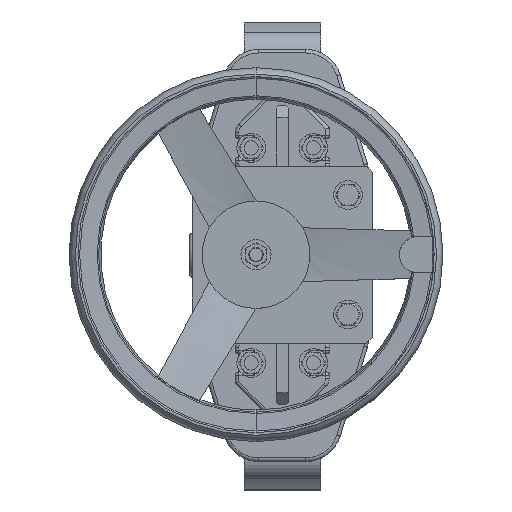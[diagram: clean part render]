
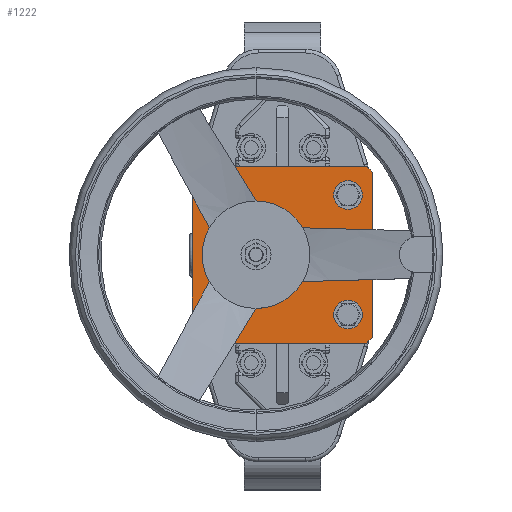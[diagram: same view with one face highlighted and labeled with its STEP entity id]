
A CAD part, top view. The second image highlights one B-rep face of the part: STEP entity #1222.
In plain terms, the highlighted planar face has unit normal (0, 0, 1).
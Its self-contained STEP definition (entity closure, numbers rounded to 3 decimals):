
#1222=ADVANCED_FACE('',(#3372,#3373,#3374,#3375,#3376,#3377),#3378,.T.);
#3372=FACE_BOUND('',#7379,.T.);
#3373=FACE_BOUND('',#7380,.T.);
#3374=FACE_BOUND('',#7381,.T.);
#3375=FACE_BOUND('',#7382,.T.);
#3376=FACE_OUTER_BOUND('',#7383,.T.);
#3377=FACE_BOUND('',#7384,.T.);
#3378=PLANE('',#7385);
#7379=EDGE_LOOP('',(#15623,#15624));
#7380=EDGE_LOOP('',(#15625,#15626));
#7381=EDGE_LOOP('',(#15627,#15628));
#7382=EDGE_LOOP('',(#15629,#15630));
#7383=EDGE_LOOP('',(#15631,#15632,#15633,#15634,#15635,#15636,#15637,#15638));
#7384=EDGE_LOOP('',(#15639,#15640));
#7385=AXIS2_PLACEMENT_3D('',#15641,#15642,#15643);
#15623=ORIENTED_EDGE('',*,*,#19034,.T.);
#15624=ORIENTED_EDGE('',*,*,#20829,.T.);
#15625=ORIENTED_EDGE('',*,*,#19988,.F.);
#15626=ORIENTED_EDGE('',*,*,#19324,.F.);
#15627=ORIENTED_EDGE('',*,*,#18794,.T.);
#15628=ORIENTED_EDGE('',*,*,#21020,.T.);
#15629=ORIENTED_EDGE('',*,*,#20726,.F.);
#15630=ORIENTED_EDGE('',*,*,#19099,.F.);
#15631=ORIENTED_EDGE('',*,*,#21021,.T.);
#15632=ORIENTED_EDGE('',*,*,#21022,.T.);
#15633=ORIENTED_EDGE('',*,*,#19807,.T.);
#15634=ORIENTED_EDGE('',*,*,#21023,.T.);
#15635=ORIENTED_EDGE('',*,*,#21024,.T.);
#15636=ORIENTED_EDGE('',*,*,#20918,.T.);
#15637=ORIENTED_EDGE('',*,*,#20412,.T.);
#15638=ORIENTED_EDGE('',*,*,#20997,.T.);
#15639=ORIENTED_EDGE('',*,*,#20158,.F.);
#15640=ORIENTED_EDGE('',*,*,#19276,.F.);
#15641=CARTESIAN_POINT('',(-75.5,-74.,588.7));
#15642=DIRECTION('',(0.,0.,1.));
#15643=DIRECTION('',(1.,0.,0.));
#18794=EDGE_CURVE('',#22342,#22339,#22343,.T.);
#19034=EDGE_CURVE('',#22818,#22815,#22819,.T.);
#19099=EDGE_CURVE('',#22937,#22940,#22941,.T.);
#19276=EDGE_CURVE('',#23285,#23288,#23289,.T.);
#19324=EDGE_CURVE('',#23380,#23383,#23384,.T.);
#19807=EDGE_CURVE('',#24240,#24241,#24242,.T.);
#19988=EDGE_CURVE('',#23383,#23380,#24524,.T.);
#20158=EDGE_CURVE('',#23288,#23285,#24792,.T.);
#20412=EDGE_CURVE('',#25182,#25183,#25184,.T.);
#20726=EDGE_CURVE('',#22940,#22937,#25632,.T.);
#20829=EDGE_CURVE('',#22815,#22818,#25765,.T.);
#20918=EDGE_CURVE('',#25873,#25182,#25874,.T.);
#20997=EDGE_CURVE('',#25183,#25972,#25973,.T.);
#21020=EDGE_CURVE('',#22339,#22342,#26002,.T.);
#21021=EDGE_CURVE('',#25972,#26003,#26004,.T.);
#21022=EDGE_CURVE('',#26003,#24240,#26005,.T.);
#21023=EDGE_CURVE('',#24241,#26006,#26007,.T.);
#21024=EDGE_CURVE('',#26006,#25873,#26008,.T.);
#22339=VERTEX_POINT('',#27757);
#22342=VERTEX_POINT('',#27761);
#22343=CIRCLE('',#27762,12.);
#22815=VERTEX_POINT('',#28613);
#22818=VERTEX_POINT('',#28617);
#22819=CIRCLE('',#28618,12.);
#22937=VERTEX_POINT('',#28844);
#22940=VERTEX_POINT('',#28848);
#22941=CIRCLE('',#28849,12.);
#23285=VERTEX_POINT('',#29559);
#23288=VERTEX_POINT('',#29563);
#23289=CIRCLE('',#29564,20.);
#23380=VERTEX_POINT('',#29722);
#23383=VERTEX_POINT('',#29726);
#23384=CIRCLE('',#29727,12.);
#24240=VERTEX_POINT('',#31551);
#24241=VERTEX_POINT('',#31552);
#24242=LINE('',#31553,#31554);
#24524=CIRCLE('',#32284,12.);
#24792=CIRCLE('',#32949,20.);
#25182=VERTEX_POINT('',#33596);
#25183=VERTEX_POINT('',#33597);
#25184=LINE('',#33598,#33599);
#25632=CIRCLE('',#34646,12.);
#25765=CIRCLE('',#34976,12.);
#25873=VERTEX_POINT('',#35244);
#25874=LINE('',#35245,#35246);
#25972=VERTEX_POINT('',#35488);
#25973=LINE('',#35489,#35490);
#26002=CIRCLE('',#35546,12.);
#26003=VERTEX_POINT('',#35547);
#26004=LINE('',#35548,#35549);
#26005=LINE('',#35550,#35551);
#26006=VERTEX_POINT('',#35552);
#26007=LINE('',#35553,#35554);
#26008=LINE('',#35555,#35556);
#27757=CARTESIAN_POINT('',(-55.,62.,588.7));
#27761=CARTESIAN_POINT('',(-55.,38.,588.7));
#27762=AXIS2_PLACEMENT_3D('',#37341,#37342,#37343);
#28613=CARTESIAN_POINT('',(55.,-62.,588.7));
#28617=CARTESIAN_POINT('',(55.,-38.,588.7));
#28618=AXIS2_PLACEMENT_3D('',#37783,#37784,#37785);
#28844=CARTESIAN_POINT('',(-55.,-62.,588.7));
#28848=CARTESIAN_POINT('',(-55.,-38.,588.7));
#28849=AXIS2_PLACEMENT_3D('',#37896,#37897,#37898);
#29559=CARTESIAN_POINT('',(-42.,0.,588.7));
#29563=CARTESIAN_POINT('',(-2.,0.,588.7));
#29564=AXIS2_PLACEMENT_3D('',#38214,#38215,#38216);
#29722=CARTESIAN_POINT('',(55.,62.,588.7));
#29726=CARTESIAN_POINT('',(55.,38.,588.7));
#29727=AXIS2_PLACEMENT_3D('',#38298,#38299,#38300);
#31551=CARTESIAN_POINT('',(70.5,74.,588.7));
#31552=CARTESIAN_POINT('',(-70.5,74.,588.7));
#31553=CARTESIAN_POINT('',(75.5,74.,588.7));
#31554=VECTOR('',#39063,1000.);
#32284=AXIS2_PLACEMENT_3D('',#39353,#39354,#39355);
#32949=AXIS2_PLACEMENT_3D('',#39598,#39599,#39600);
#33596=CARTESIAN_POINT('',(-70.5,-74.,588.7));
#33597=CARTESIAN_POINT('',(70.5,-74.,588.7));
#33598=CARTESIAN_POINT('',(-75.5,-74.,588.7));
#33599=VECTOR('',#40038,1000.);
#34646=AXIS2_PLACEMENT_3D('',#40557,#40558,#40559);
#34976=AXIS2_PLACEMENT_3D('',#40726,#40727,#40728);
#35244=CARTESIAN_POINT('',(-75.5,-69.,588.7));
#35245=CARTESIAN_POINT('',(-73.,-71.5,588.7));
#35246=VECTOR('',#40882,1000.);
#35488=CARTESIAN_POINT('',(75.5,-69.,588.7));
#35489=CARTESIAN_POINT('',(-2.5,-147.,588.7));
#35490=VECTOR('',#41008,1000.);
#35546=AXIS2_PLACEMENT_3D('',#41043,#41044,#41045);
#35547=CARTESIAN_POINT('',(75.5,69.,588.7));
#35548=CARTESIAN_POINT('',(75.5,-74.,588.7));
#35549=VECTOR('',#41046,1000.);
#35550=CARTESIAN_POINT('',(71.5,73.,588.7));
#35551=VECTOR('',#41047,1000.);
#35552=CARTESIAN_POINT('',(-75.5,69.,588.7));
#35553=CARTESIAN_POINT('',(-147.,-2.5,588.7));
#35554=VECTOR('',#41048,1000.);
#35555=CARTESIAN_POINT('',(-75.5,74.,588.7));
#35556=VECTOR('',#41049,1000.);
#37341=CARTESIAN_POINT('',(-55.,50.,588.7));
#37342=DIRECTION('',(0.,0.,-1.));
#37343=DIRECTION('',(0.,-1.,0.));
#37783=CARTESIAN_POINT('',(55.,-50.,588.7));
#37784=DIRECTION('',(0.,0.,-1.));
#37785=DIRECTION('',(0.,1.,0.));
#37896=CARTESIAN_POINT('',(-55.,-50.,588.7));
#37897=DIRECTION('',(0.,0.,1.));
#37898=DIRECTION('',(0.,1.,0.));
#38214=CARTESIAN_POINT('',(-22.,0.,588.7));
#38215=DIRECTION('',(0.,0.,1.));
#38216=DIRECTION('',(1.,0.,0.));
#38298=CARTESIAN_POINT('',(55.,50.,588.7));
#38299=DIRECTION('',(0.,0.,1.));
#38300=DIRECTION('',(0.,-1.,0.));
#39063=DIRECTION('',(-1.,0.,0.));
#39353=CARTESIAN_POINT('',(55.,50.,588.7));
#39354=DIRECTION('',(0.,0.,1.));
#39355=DIRECTION('',(0.,-1.,0.));
#39598=CARTESIAN_POINT('',(-22.,0.,588.7));
#39599=DIRECTION('',(0.,0.,1.));
#39600=DIRECTION('',(1.,0.,0.));
#40038=DIRECTION('',(1.,0.,0.));
#40557=CARTESIAN_POINT('',(-55.,-50.,588.7));
#40558=DIRECTION('',(0.,0.,1.));
#40559=DIRECTION('',(0.,1.,0.));
#40726=CARTESIAN_POINT('',(55.,-50.,588.7));
#40727=DIRECTION('',(0.,0.,-1.));
#40728=DIRECTION('',(0.,1.,0.));
#40882=DIRECTION('',(0.707,-0.707,0.));
#41008=DIRECTION('',(0.707,0.707,0.));
#41043=CARTESIAN_POINT('',(-55.,50.,588.7));
#41044=DIRECTION('',(0.,0.,-1.));
#41045=DIRECTION('',(0.,-1.,0.));
#41046=DIRECTION('',(0.,1.,0.));
#41047=DIRECTION('',(-0.707,0.707,0.));
#41048=DIRECTION('',(-0.707,-0.707,0.));
#41049=DIRECTION('',(0.,-1.,0.));
